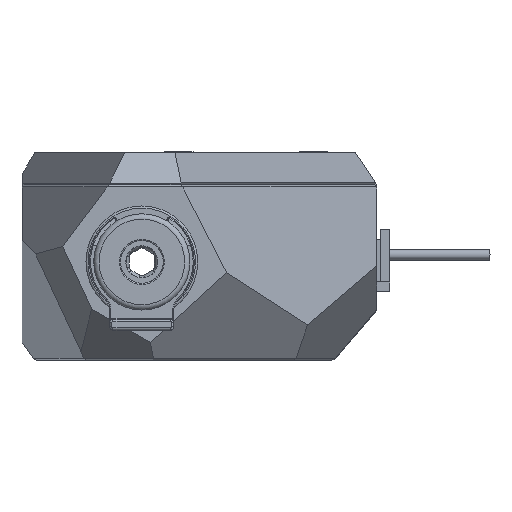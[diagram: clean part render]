
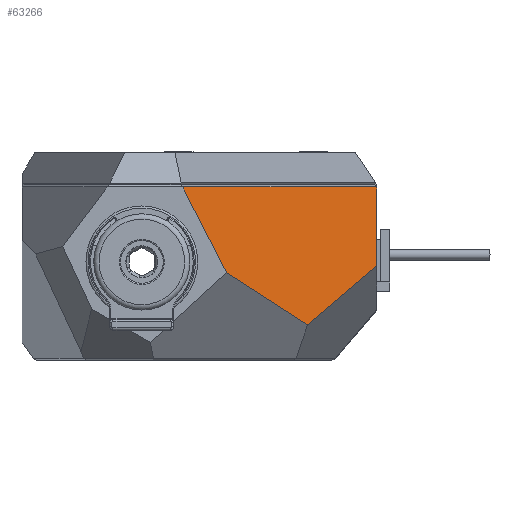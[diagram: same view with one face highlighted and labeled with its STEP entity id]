
A CAD part, left-side view. The second image highlights one B-rep face of the part: STEP entity #63266.
In plain terms, the highlighted planar face has unit normal (-0.383, -0.821, 0.423).
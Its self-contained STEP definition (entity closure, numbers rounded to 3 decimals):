
#7510=FACE_OUTER_BOUND('',#11146,.T.);
#11146=EDGE_LOOP('',(#49005,#49006,#49007,#49008,#49009,#49010,#49011));
#16063=LINE('',#100715,#21987);
#16131=LINE('',#100848,#22055);
#16136=LINE('',#100859,#22060);
#16140=LINE('',#100867,#22064);
#16151=LINE('',#100888,#22075);
#16152=LINE('',#100890,#22076);
#16153=LINE('',#100891,#22077);
#21987=VECTOR('',#77703,10.);
#22055=VECTOR('',#77803,10.);
#22060=VECTOR('',#77814,10.);
#22064=VECTOR('',#77820,10.);
#22075=VECTOR('',#77837,10.);
#22076=VECTOR('',#77838,10.);
#22077=VECTOR('',#77839,10.);
#27801=VERTEX_POINT('',#100712);
#27802=VERTEX_POINT('',#100714);
#27851=VERTEX_POINT('',#100846);
#27854=VERTEX_POINT('',#100858);
#27857=VERTEX_POINT('',#100865);
#27864=VERTEX_POINT('',#100887);
#27865=VERTEX_POINT('',#100889);
#35381=EDGE_CURVE('',#27801,#27802,#16063,.T.);
#35449=EDGE_CURVE('',#27851,#27801,#16131,.T.);
#35454=EDGE_CURVE('',#27854,#27851,#16136,.T.);
#35458=EDGE_CURVE('',#27857,#27854,#16140,.T.);
#35469=EDGE_CURVE('',#27864,#27857,#16151,.T.);
#35470=EDGE_CURVE('',#27864,#27865,#16152,.T.);
#35471=EDGE_CURVE('',#27865,#27802,#16153,.T.);
#49005=ORIENTED_EDGE('',*,*,#35449,.F.);
#49006=ORIENTED_EDGE('',*,*,#35454,.F.);
#49007=ORIENTED_EDGE('',*,*,#35458,.F.);
#49008=ORIENTED_EDGE('',*,*,#35469,.F.);
#49009=ORIENTED_EDGE('',*,*,#35470,.T.);
#49010=ORIENTED_EDGE('',*,*,#35471,.T.);
#49011=ORIENTED_EDGE('',*,*,#35381,.F.);
#60974=PLANE('',#68064);
#63266=ADVANCED_FACE('',(#7510),#60974,.F.);
#68064=AXIS2_PLACEMENT_3D('',#100886,#77835,#77836);
#77703=DIRECTION('',(-0.741,0.,-0.672));
#77803=DIRECTION('',(0.593,-0.569,-0.569));
#77814=DIRECTION('',(0.906,-0.423,0.));
#77820=DIRECTION('',(0.707,0.034,0.707));
#77835=DIRECTION('center_axis',(0.383,0.821,-0.423));
#77836=DIRECTION('ref_axis',(-0.741,0.,-0.672));
#77837=DIRECTION('',(0.,0.458,0.889));
#77838=DIRECTION('',(0.768,-0.537,-0.348));
#77839=DIRECTION('',(0.92,-0.298,0.255));
#100712=CARTESIAN_POINT('',(-5.137,-16.789,7.));
#100714=CARTESIAN_POINT('',(-13.257,-16.789,-0.359));
#100715=CARTESIAN_POINT('',(-4.213,-16.789,7.837));
#100846=CARTESIAN_POINT('',(-5.156,-16.77,7.019));
#100848=CARTESIAN_POINT('',(-4.297,-17.595,6.193));
#100858=CARTESIAN_POINT('',(-44.024,1.354,7.019));
#100859=CARTESIAN_POINT('',(-18.037,-10.764,7.019));
#100865=CARTESIAN_POINT('',(-44.042,1.353,7.));
#100867=CARTESIAN_POINT('',(-42.215,1.441,8.827));
#100886=CARTESIAN_POINT('Origin',(-26.854,-11.284,-1.985));
#100887=CARTESIAN_POINT('',(-44.042,-2.757,-0.99));
#100888=CARTESIAN_POINT('',(-44.042,-6.584,-8.427));
#100889=CARTESIAN_POINT('',(-33.212,-10.328,-5.888));
#100890=CARTESIAN_POINT('',(-30.603,-12.152,-7.068));
#100891=CARTESIAN_POINT('',(-18.76,-15.007,-1.884));
